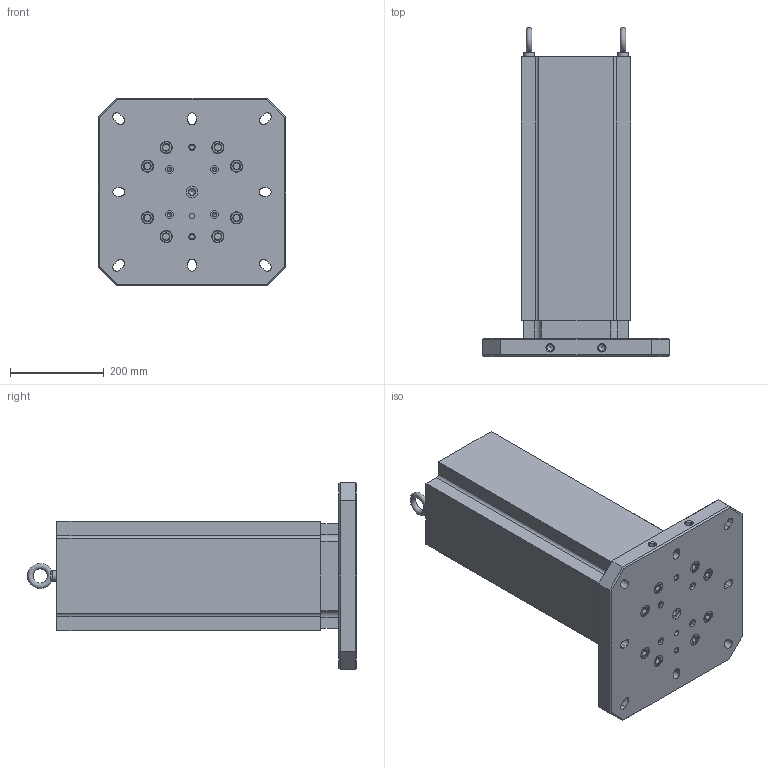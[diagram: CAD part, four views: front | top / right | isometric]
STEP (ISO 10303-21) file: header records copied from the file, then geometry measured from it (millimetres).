
FILE_DESCRIPTION (( 'STEP AP214' ), '1' );
FILE_NAME ('MTA-4004U-638_WEBSITE.step', '2025-08-11T12:45:04', ( '' ), ( '' ), 'SwSTEP 2.0', 'SolidWorks 2024', '' );
FILE_SCHEMA (( 'AUTOMOTIVE_DESIGN' ));
Length unit declared in the file: millimetre
Products named in the file (8): MT-4600A_WEBSITE_MT-4600A; M16X065.SHCS_WEBSITE_91290A835; RL96-4004BUA_WEBSITE; MTA-4004U-638_WEBSITE; M6X020.SHCS_WEBSITE_91290A319; M10x020.DP_WEBSITE_91595A640; M12X24MM.EB (McM 3040T15)_WEBSITE_3040T15; RL96-14TC_WEBSITE
Assembly tree (19 placements, depth 2):
  MTA-4004U-638_WEBSITE
    MT-4600A_WEBSITE_MT-4600A
    RL96-4004BUA_WEBSITE
    M16X065.SHCS_WEBSITE_91290A835  x8
    M10x020.DP_WEBSITE_91595A640  x2
    RL96-14TC_WEBSITE
    M12X24MM.EB (McM 3040T15)_WEBSITE_3040T15  x2
    M6X020.SHCS_WEBSITE_91290A319  x4
Bounding box: 400 x 700.82 x 400 mm (x, y, z)
Volume: 25458092.2 mm3; surface area: 1458301.7 mm2
Topology: 19 solids, 19 shells, 595 faces, 1296 edges, 799 vertices
Faces by surface type: plane 318, cylinder 164, cone 111, torus 2
Full cylindrical faces by diameter (mm): 5 x4, 6 x4, 6.6 x4, 8.5 x4, 10 x6, 10.025 x4, 10.2 x4, 11 x4, 12 x3, 14 x12, 16 x8, 16.02 x4, 17.5 x16, 23 x2, 24 x8, 25.025 x1, 26 x8
Entity records: 11807 total; most frequent: CARTESIAN_POINT 2020, DIRECTION 1920, ORIENTED_EDGE 1602, EDGE_CURVE 801, AXIS2_PLACEMENT_3D 721, EDGE_LOOP 596, VERTEX_POINT 571, LINE 478
